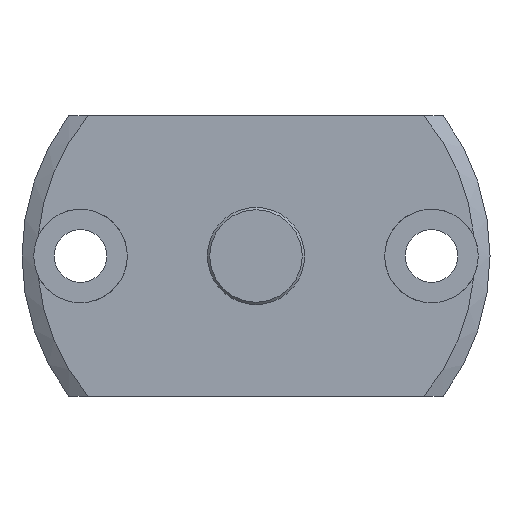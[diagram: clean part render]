
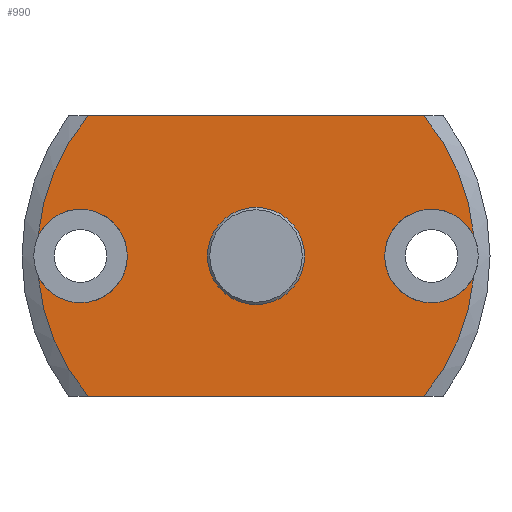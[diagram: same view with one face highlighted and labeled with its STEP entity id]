
A CAD part, left-side view. The second image highlights one B-rep face of the part: STEP entity #990.
In plain terms, the highlighted planar face has unit normal (-1, 0, 0).
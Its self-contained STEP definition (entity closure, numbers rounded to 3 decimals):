
#38=LINE('',#1739,#88);
#39=LINE('',#1741,#89);
#88=VECTOR('',#1333,1000.);
#89=VECTOR('',#1336,1000.);
#304=ORIENTED_EDGE('',*,*,#550,.T.);
#305=ORIENTED_EDGE('',*,*,#536,.T.);
#306=ORIENTED_EDGE('',*,*,#551,.F.);
#307=ORIENTED_EDGE('',*,*,#538,.F.);
#308=ORIENTED_EDGE('',*,*,#552,.T.);
#309=ORIENTED_EDGE('',*,*,#542,.T.);
#310=ORIENTED_EDGE('',*,*,#553,.F.);
#311=ORIENTED_EDGE('',*,*,#532,.T.);
#312=ORIENTED_EDGE('',*,*,#554,.T.);
#532=EDGE_CURVE('',#654,#652,#723,.F.);
#536=EDGE_CURVE('',#653,#657,#725,.F.);
#538=EDGE_CURVE('',#658,#660,#726,.T.);
#542=EDGE_CURVE('',#659,#663,#728,.F.);
#550=EDGE_CURVE('',#652,#653,#734,.T.);
#551=EDGE_CURVE('',#660,#657,#38,.T.);
#552=EDGE_CURVE('',#658,#659,#735,.T.);
#553=EDGE_CURVE('',#654,#663,#39,.T.);
#554=EDGE_CURVE('',#671,#671,#736,.T.);
#652=VERTEX_POINT('',#1683);
#653=VERTEX_POINT('',#1684);
#654=VERTEX_POINT('',#1686);
#657=VERTEX_POINT('',#1698);
#658=VERTEX_POINT('',#1705);
#659=VERTEX_POINT('',#1706);
#660=VERTEX_POINT('',#1708);
#663=VERTEX_POINT('',#1720);
#671=VERTEX_POINT('',#1743);
#723=CIRCLE('',#1106,18.7);
#725=CIRCLE('',#1108,18.7);
#726=CIRCLE('',#1110,18.7);
#728=CIRCLE('',#1112,18.7);
#734=CIRCLE('',#1120,4.);
#735=CIRCLE('',#1121,4.);
#736=CIRCLE('',#1122,4.);
#792=EDGE_LOOP('',(#304,#305,#306,#307,#308,#309,#310,#311));
#793=EDGE_LOOP('',(#312));
#882=FACE_BOUND('',#792,.T.);
#883=FACE_BOUND('',#793,.T.);
#938=PLANE('',#1119);
#990=ADVANCED_FACE('',(#882,#883),#938,.F.);
#1106=AXIS2_PLACEMENT_3D('',#1685,#1301,#1302);
#1108=AXIS2_PLACEMENT_3D('',#1699,#1305,#1306);
#1110=AXIS2_PLACEMENT_3D('',#1707,#1309,#1310);
#1112=AXIS2_PLACEMENT_3D('',#1721,#1313,#1314);
#1119=AXIS2_PLACEMENT_3D('',#1737,#1329,#1330);
#1120=AXIS2_PLACEMENT_3D('',#1738,#1331,#1332);
#1121=AXIS2_PLACEMENT_3D('',#1740,#1334,#1335);
#1122=AXIS2_PLACEMENT_3D('',#1742,#1337,#1338);
#1301=DIRECTION('',(1.,0.,0.));
#1302=DIRECTION('',(0.,0.,-1.));
#1305=DIRECTION('',(1.,0.,0.));
#1306=DIRECTION('',(0.,0.,-1.));
#1309=DIRECTION('',(1.,0.,0.));
#1310=DIRECTION('',(0.,0.,-1.));
#1313=DIRECTION('',(1.,0.,0.));
#1314=DIRECTION('',(0.,0.,-1.));
#1329=DIRECTION('',(1.,0.,0.));
#1330=DIRECTION('',(0.,0.,-1.));
#1331=DIRECTION('',(1.,0.,0.));
#1332=DIRECTION('',(0.,0.,-1.));
#1333=DIRECTION('',(0.,-1.,0.));
#1334=DIRECTION('',(1.,0.,0.));
#1335=DIRECTION('',(0.,0.,-1.));
#1336=DIRECTION('',(0.,1.,0.));
#1337=DIRECTION('',(1.,0.,0.));
#1338=DIRECTION('',(0.,0.,-1.));
#1683=CARTESIAN_POINT('',(0.,-18.623,-1.695));
#1684=CARTESIAN_POINT('',(0.,-18.623,1.695));
#1685=CARTESIAN_POINT('',(0.,0.,0.));
#1686=CARTESIAN_POINT('',(0.,-14.342,-12.));
#1698=CARTESIAN_POINT('',(0.,-14.342,12.));
#1699=CARTESIAN_POINT('',(0.,0.,0.));
#1705=CARTESIAN_POINT('',(0.,18.623,1.695));
#1706=CARTESIAN_POINT('',(0.,18.623,-1.695));
#1707=CARTESIAN_POINT('',(0.,0.,0.));
#1708=CARTESIAN_POINT('',(0.,14.342,12.));
#1720=CARTESIAN_POINT('',(0.,14.342,-12.));
#1721=CARTESIAN_POINT('',(0.,0.,0.));
#1737=CARTESIAN_POINT('',(0.,0.,0.));
#1738=CARTESIAN_POINT('',(0.,-15.,0.));
#1739=CARTESIAN_POINT('',(0.,16.,12.));
#1740=CARTESIAN_POINT('',(0.,15.,0.));
#1741=CARTESIAN_POINT('',(0.,-16.,-12.));
#1742=CARTESIAN_POINT('',(0.,0.,0.));
#1743=CARTESIAN_POINT('',(0.,0.,-4.));
